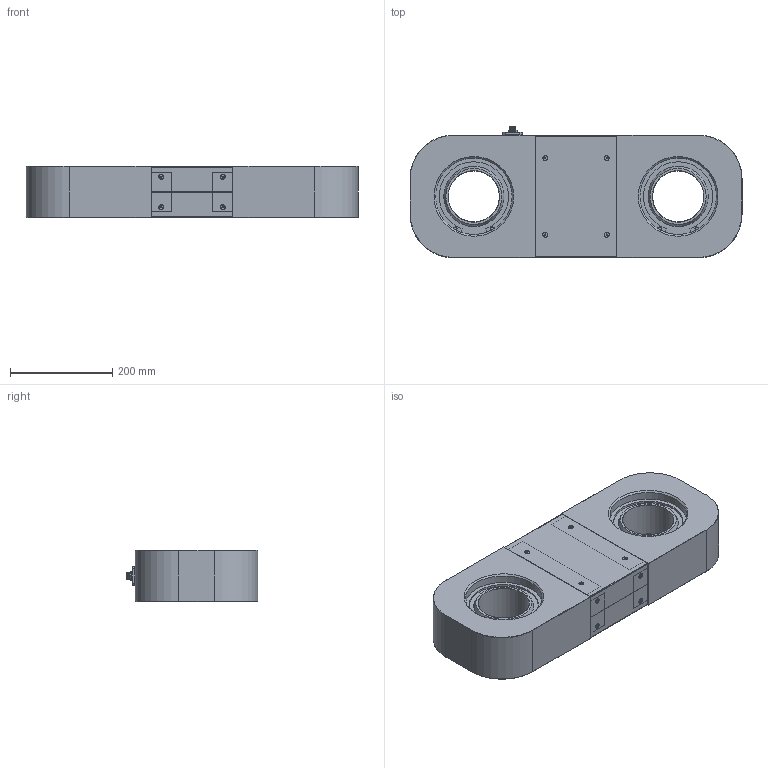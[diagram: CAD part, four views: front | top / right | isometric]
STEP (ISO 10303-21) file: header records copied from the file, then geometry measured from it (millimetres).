
FILE_DESCRIPTION(/* description */ ('Alibre Inc.'),/* implementation_level */ '2;1');
FILE_NAME(/* name */ 'export0',/* time_stamp */ '2014-07-25T18:12:23+02:00',/* author */ (''),/* organization */ (''),/* preprocessor_version */ 'ST-DEVELOPER v14',/* originating_system */ 'Alibre',/* authorisation */ '');
FILE_SCHEMA (('CONFIG_CONTROL_DESIGN'));
Length unit declared in the file: centimetre
Products named in the file (18): ID_1; ID_2; ID_3; ID_4; ID_5; ID_6
Bounding box: 650 x 257.5 x 100 mm (x, y, z)
Volume: 12425752.5 mm3; surface area: 1005472.2 mm2
Topology: 45 solids, 45 shells, 1470 faces, 3486 edges, 2257 vertices
Faces by surface type: plane 1027, cylinder 171, bspline 131, cone 115, sphere 16, torus 10
Full cylindrical faces by diameter (mm): 0.5 x8, 2.459 x4, 3 x4, 3.3 x4, 3.4 x4, 4.134 x16, 5 x16, 7.5 x4, 8 x2, 9.4 x16, 10 x5, 11.5 x1, 13 x1, 14.376 x2, 16 x2, 16.5 x1, 18 x1, 20 x1, 29 x2, 100 x2, 123 x2, 150 x6, 155 x2
Entity records: 35599 total; most frequent: CARTESIAN_POINT 15641, ORIENTED_EDGE 3656, DIRECTION 2829, EDGE_CURVE 1823, VERTEX_POINT 1267, VECTOR 1200, LINE 1200, FACE_BOUND 1127
